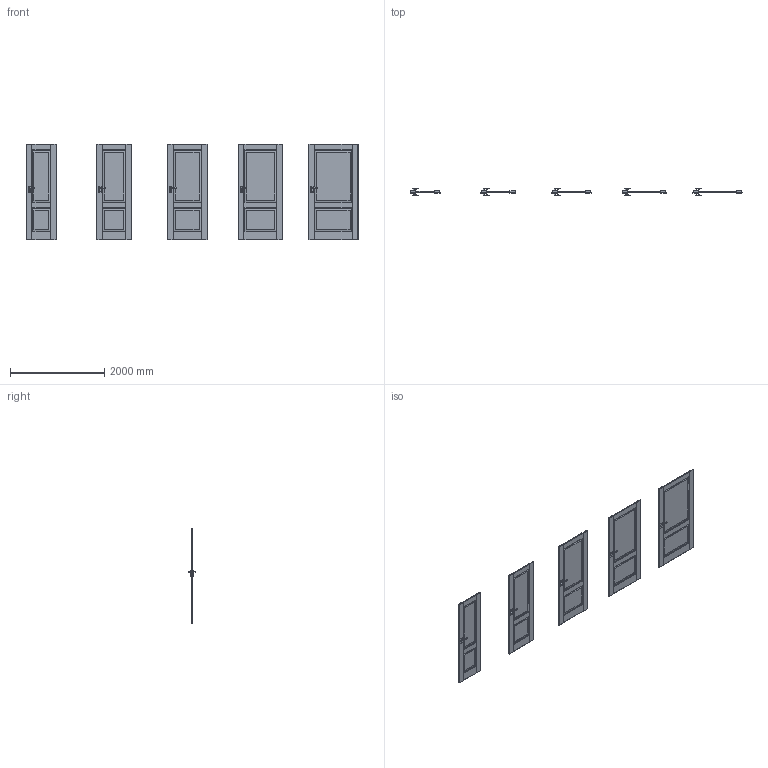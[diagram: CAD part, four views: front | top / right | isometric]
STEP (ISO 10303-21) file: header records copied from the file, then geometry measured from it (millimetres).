
FILE_DESCRIPTION(/* description */ (''),/* implementation_level */ '2;1');
FILE_NAME(/* name */ '049797_A_2-Skrzydło Balance model A_ polska norma _PN__ przylgowe..stp',/* time_stamp */ '2024-07-10T14:44:05+02:00',/* author */ (''),/* organization */ (''),/* preprocessor_version */ 'ST-DEVELOPER v16',/* originating_system */ 'SIEMENS PLM Software NX 11.0',/* authorisation */ '');
FILE_SCHEMA (('AUTOMOTIVE_DESIGN { 1 0 10303 214 3 1 1 1 }'));
Products named in the file (1): bkni51A47D38elon
Bounding box: 7044 x 153.13 x 2030.02 mm (x, y, z)
Volume: 208629075.9 mm3; surface area: 19279045.9 mm2
Topology: 25 solids, 25 shells, 1840 faces, 4675 edges, 2810 vertices
Faces by surface type: plane 925, cylinder 610, bspline 165, sphere 140
Entity records: 60194 total; most frequent: CARTESIAN_POINT 17081, ORIENTED_EDGE 9070, DIRECTION 8727, EDGE_CURVE 4535, AXIS2_PLACEMENT_3D 2936, LINE 2855, VECTOR 2855, VERTEX_POINT 2810
